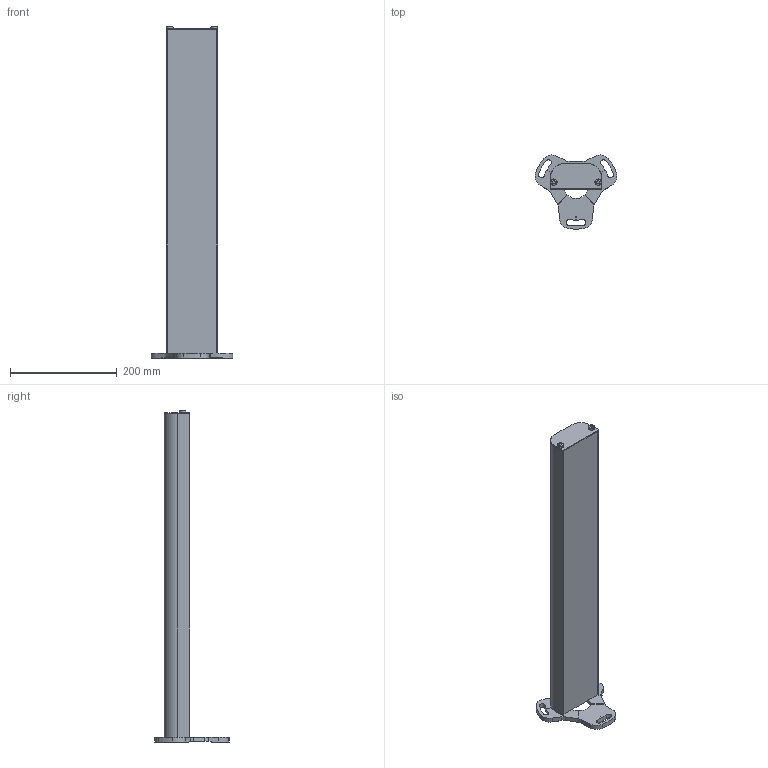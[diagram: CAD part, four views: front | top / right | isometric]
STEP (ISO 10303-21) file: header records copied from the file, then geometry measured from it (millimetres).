
FILE_DESCRIPTION(/* description */ (''),/* implementation_level */ '2;1');
FILE_NAME(/* name */ 'D:\_Vault\Workspace\Projektordner\Sensoren\PSENoptII Zubehör\Kundendaten\Neutralformate\H305518_A_mirror_column_060_PSEN_opII_Kundendaten.stp',/* time_stamp */ '2018-04-05T13:58:30+02:00',/* author */ ('dambuehl'),/* organization */ (''),/* preprocessor_version */ 'ST-DEVELOPER v16.5',/* originating_system */ 'Autodesk Inventor 2017',/* authorisation */ '');
FILE_SCHEMA (('AUTOMOTIVE_DESIGN { 1 0 10303 214 3 1 1 }'));
Length unit declared in the file: millimetre
Products named in the file (1): H305518-22
Bounding box: 153.46 x 139.19 x 623.25 mm (x, y, z)
Volume: 2620740 mm3; surface area: 196169.2 mm2
Topology: 1 solids, 1 shells, 133 faces, 361 edges, 240 vertices
Faces by surface type: plane 86, cylinder 43, bspline 2, cone 2
Full cylindrical faces by diameter (mm): 45 x1
Entity records: 4282 total; most frequent: CARTESIAN_POINT 786, DIRECTION 722, ORIENTED_EDGE 714, EDGE_CURVE 357, LINE 252, VECTOR 252, VERTEX_POINT 239, AXIS2_PLACEMENT_3D 235
